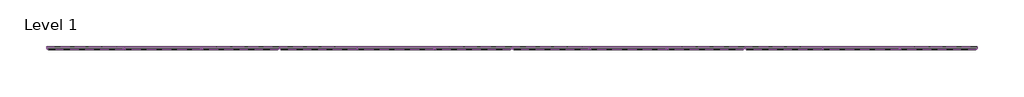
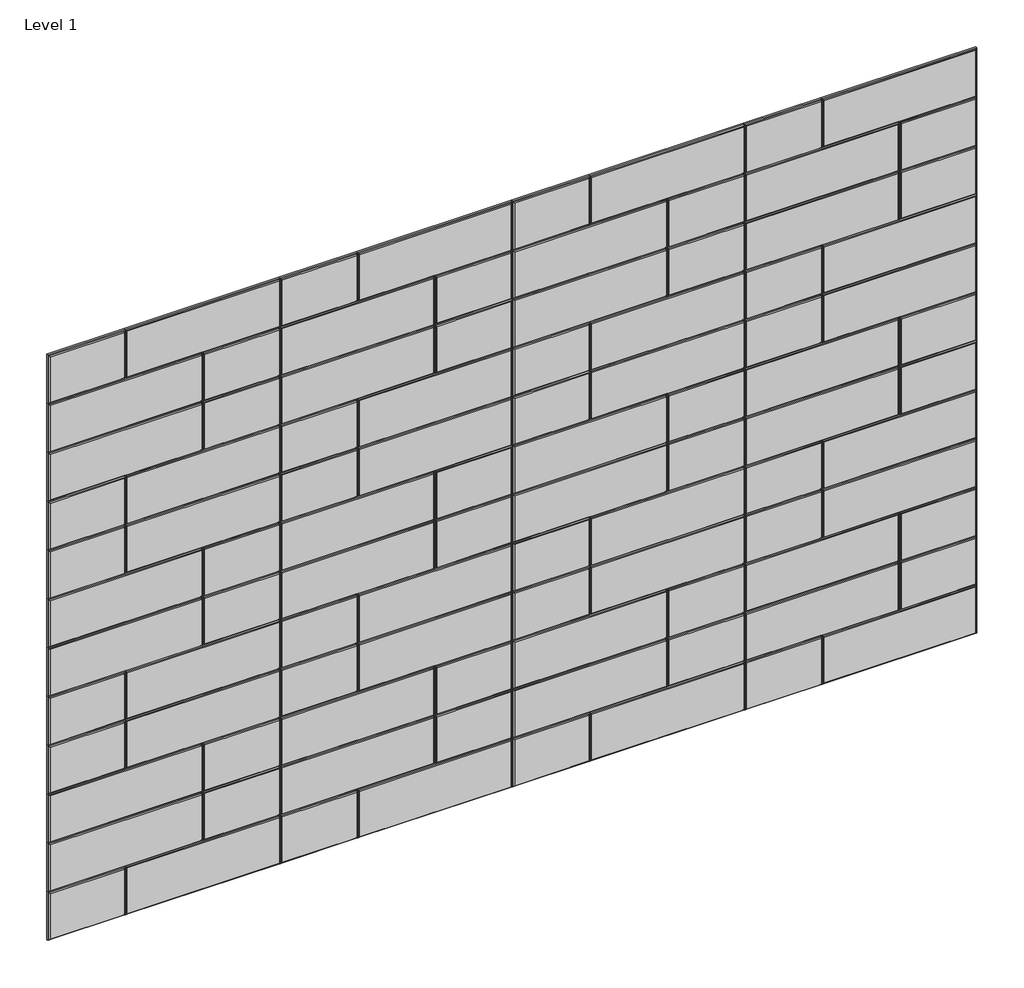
# One storey: 96 proxies.
"""IFC4 building model written with IfcOpenShell, lengths in millimetres."""

from ifc_helpers import new_model, si_unit, origin, place, context, project, spatial, transform, mapped, element, save
from components import specialty_equipment_352826ec, specialty_equipment_34b97818

model = new_model("IFC4")

# Units and contexts
model_context = context("Model", 3, world=origin())
ifc_project = project(units=[si_unit("LENGTHUNIT", "METRE", prefix="MILLI")], contexts=[model_context])

# Site, building, storey
site = spatial("IfcSite", under=ifc_project)
building = spatial("IfcBuilding", under=site)
storey = spatial("IfcBuildingStorey", under=building, Name="Level 1", Elevation=0.0)

# Proxies
placement = place(None, origin())
specialty_equipment_shape = specialty_equipment_352826ec(model_context)
element("IfcBuildingElementProxy", 1, Name="FilzFelt_Rectangle A_Block : Chamfered Edge = 2’-0” x 8” (61 x 20.3 cm)", ObjectType="FilzFelt_Rectangle A_Block : Chamfered Edge = 2’-0” x 8” (61 x 20.3 cm)", at=placement, inside=storey, context=model_context, shape_type="MappedRepresentation", body=[
    mapped(specialty_equipment_shape, transform((37977.3097905, 3946.8352795, 2540.0), x_axis=(1.0, 0.0, 0.0), y_axis=(0.0, 0.0, 1.0), z_axis=(0.0, -1.0, 0.0))),
])
element("IfcBuildingElementProxy", 2, Name="FilzFelt_Rectangle A_Block : Chamfered Edge = 2’-0” x 8” (61 x 20.3 cm)", ObjectType="FilzFelt_Rectangle A_Block : Chamfered Edge = 2’-0” x 8” (61 x 20.3 cm)", at=placement, inside=storey, context=model_context, shape_type="MappedRepresentation", body=[
    mapped(specialty_equipment_shape, transform((38891.7097905, 3946.8352795, 2540.0), x_axis=(1.0, 0.0, 0.0), y_axis=(0.0, 0.0, 1.0), z_axis=(0.0, -1.0, 0.0))),
])
element("IfcBuildingElementProxy", 3, Name="FilzFelt_Rectangle A_Block : Chamfered Edge = 2’-0” x 8” (61 x 20.3 cm)", ObjectType="FilzFelt_Rectangle A_Block : Chamfered Edge = 2’-0” x 8” (61 x 20.3 cm)", at=placement, inside=storey, context=model_context, shape_type="MappedRepresentation", body=[
    mapped(specialty_equipment_shape, transform((39806.1097905, 3946.8352795, 2540.0), x_axis=(1.0, 0.0, 0.0), y_axis=(0.0, 0.0, 1.0), z_axis=(0.0, -1.0, 0.0))),
])
element("IfcBuildingElementProxy", 4, Name="FilzFelt_Rectangle A_Block : Chamfered Edge = 2’-0” x 8” (61 x 20.3 cm)", ObjectType="FilzFelt_Rectangle A_Block : Chamfered Edge = 2’-0” x 8” (61 x 20.3 cm)", at=placement, inside=storey, context=model_context, shape_type="MappedRepresentation", body=[
    mapped(specialty_equipment_shape, transform((40720.5097905, 3946.8352795, 2540.0), x_axis=(1.0, 0.0, 0.0), y_axis=(0.0, 0.0, 1.0), z_axis=(0.0, -1.0, 0.0))),
])
element("IfcBuildingElementProxy", 5, Name="FilzFelt_Rectangle A_Block : Chamfered Edge = 2’-0” x 8” (61 x 20.3 cm)", ObjectType="FilzFelt_Rectangle A_Block : Chamfered Edge = 2’-0” x 8” (61 x 20.3 cm)", at=placement, inside=storey, context=model_context, shape_type="MappedRepresentation", body=[
    mapped(specialty_equipment_shape, transform((37672.5097905, 3946.8352795, 2133.6), x_axis=(1.0, 0.0, 0.0), y_axis=(0.0, 0.0, 1.0), z_axis=(0.0, -1.0, 0.0))),
])
element("IfcBuildingElementProxy", 6, Name="FilzFelt_Rectangle A_Block : Chamfered Edge = 2’-0” x 8” (61 x 20.3 cm)", ObjectType="FilzFelt_Rectangle A_Block : Chamfered Edge = 2’-0” x 8” (61 x 20.3 cm)", at=placement, inside=storey, context=model_context, shape_type="MappedRepresentation", body=[
    mapped(specialty_equipment_shape, transform((38586.9097905, 3946.8352795, 2133.6), x_axis=(1.0, 0.0, 0.0), y_axis=(0.0, 0.0, 1.0), z_axis=(0.0, -1.0, 0.0))),
])
element("IfcBuildingElementProxy", 7, Name="FilzFelt_Rectangle A_Block : Chamfered Edge = 2’-0” x 8” (61 x 20.3 cm)", ObjectType="FilzFelt_Rectangle A_Block : Chamfered Edge = 2’-0” x 8” (61 x 20.3 cm)", at=placement, inside=storey, context=model_context, shape_type="MappedRepresentation", body=[
    mapped(specialty_equipment_shape, transform((39501.3097905, 3946.8352795, 2133.6), x_axis=(1.0, 0.0, 0.0), y_axis=(0.0, 0.0, 1.0), z_axis=(0.0, -1.0, 0.0))),
])
element("IfcBuildingElementProxy", 8, Name="FilzFelt_Rectangle A_Block : Chamfered Edge = 2’-0” x 8” (61 x 20.3 cm)", ObjectType="FilzFelt_Rectangle A_Block : Chamfered Edge = 2’-0” x 8” (61 x 20.3 cm)", at=placement, inside=storey, context=model_context, shape_type="MappedRepresentation", body=[
    mapped(specialty_equipment_shape, transform((40415.7097905, 3946.8352795, 2133.6), x_axis=(1.0, 0.0, 0.0), y_axis=(0.0, 0.0, 1.0), z_axis=(0.0, -1.0, 0.0))),
])
element("IfcBuildingElementProxy", 9, Name="FilzFelt_Rectangle A_Block : Chamfered Edge = 2’-0” x 8” (61 x 20.3 cm)", ObjectType="FilzFelt_Rectangle A_Block : Chamfered Edge = 2’-0” x 8” (61 x 20.3 cm)", at=placement, inside=storey, context=model_context, shape_type="MappedRepresentation", body=[
    mapped(specialty_equipment_shape, transform((37977.3097905, 3946.8352795, 1727.2), x_axis=(1.0, 0.0, 0.0), y_axis=(0.0, 0.0, 1.0), z_axis=(0.0, -1.0, 0.0))),
])
element("IfcBuildingElementProxy", 10, Name="FilzFelt_Rectangle A_Block : Chamfered Edge = 2’-0” x 8” (61 x 20.3 cm)", ObjectType="FilzFelt_Rectangle A_Block : Chamfered Edge = 2’-0” x 8” (61 x 20.3 cm)", at=placement, inside=storey, context=model_context, shape_type="MappedRepresentation", body=[
    mapped(specialty_equipment_shape, transform((38891.7097905, 3946.8352795, 1727.2), x_axis=(1.0, 0.0, 0.0), y_axis=(0.0, 0.0, 1.0), z_axis=(0.0, -1.0, 0.0))),
])
element("IfcBuildingElementProxy", 11, Name="FilzFelt_Rectangle A_Block : Chamfered Edge = 2’-0” x 8” (61 x 20.3 cm)", ObjectType="FilzFelt_Rectangle A_Block : Chamfered Edge = 2’-0” x 8” (61 x 20.3 cm)", at=placement, inside=storey, context=model_context, shape_type="MappedRepresentation", body=[
    mapped(specialty_equipment_shape, transform((39806.1097905, 3946.8352795, 1727.2), x_axis=(1.0, 0.0, 0.0), y_axis=(0.0, 0.0, 1.0), z_axis=(0.0, -1.0, 0.0))),
])
element("IfcBuildingElementProxy", 12, Name="FilzFelt_Rectangle A_Block : Chamfered Edge = 2’-0” x 8” (61 x 20.3 cm)", ObjectType="FilzFelt_Rectangle A_Block : Chamfered Edge = 2’-0” x 8” (61 x 20.3 cm)", at=placement, inside=storey, context=model_context, shape_type="MappedRepresentation", body=[
    mapped(specialty_equipment_shape, transform((40720.5097905, 3946.8352795, 1727.2), x_axis=(1.0, 0.0, 0.0), y_axis=(0.0, 0.0, 1.0), z_axis=(0.0, -1.0, 0.0))),
])
element("IfcBuildingElementProxy", 13, Name="FilzFelt_Rectangle A_Block : Chamfered Edge = 2’-0” x 8” (61 x 20.3 cm)", ObjectType="FilzFelt_Rectangle A_Block : Chamfered Edge = 2’-0” x 8” (61 x 20.3 cm)", at=placement, inside=storey, context=model_context, shape_type="MappedRepresentation", body=[
    mapped(specialty_equipment_shape, transform((37672.5097905, 3946.8352795, 1320.8), x_axis=(1.0, 0.0, 0.0), y_axis=(0.0, 0.0, 1.0), z_axis=(0.0, -1.0, 0.0))),
])
element("IfcBuildingElementProxy", 14, Name="FilzFelt_Rectangle A_Block : Chamfered Edge = 2’-0” x 8” (61 x 20.3 cm)", ObjectType="FilzFelt_Rectangle A_Block : Chamfered Edge = 2’-0” x 8” (61 x 20.3 cm)", at=placement, inside=storey, context=model_context, shape_type="MappedRepresentation", body=[
    mapped(specialty_equipment_shape, transform((38586.9097905, 3946.8352795, 1320.8), x_axis=(1.0, 0.0, 0.0), y_axis=(0.0, 0.0, 1.0), z_axis=(0.0, -1.0, 0.0))),
])
element("IfcBuildingElementProxy", 15, Name="FilzFelt_Rectangle A_Block : Chamfered Edge = 2’-0” x 8” (61 x 20.3 cm)", ObjectType="FilzFelt_Rectangle A_Block : Chamfered Edge = 2’-0” x 8” (61 x 20.3 cm)", at=placement, inside=storey, context=model_context, shape_type="MappedRepresentation", body=[
    mapped(specialty_equipment_shape, transform((39501.3097905, 3946.8352795, 1320.8), x_axis=(1.0, 0.0, 0.0), y_axis=(0.0, 0.0, 1.0), z_axis=(0.0, -1.0, 0.0))),
])
element("IfcBuildingElementProxy", 16, Name="FilzFelt_Rectangle A_Block : Chamfered Edge = 2’-0” x 8” (61 x 20.3 cm)", ObjectType="FilzFelt_Rectangle A_Block : Chamfered Edge = 2’-0” x 8” (61 x 20.3 cm)", at=placement, inside=storey, context=model_context, shape_type="MappedRepresentation", body=[
    mapped(specialty_equipment_shape, transform((40415.7097905, 3946.8352795, 1320.8), x_axis=(1.0, 0.0, 0.0), y_axis=(0.0, 0.0, 1.0), z_axis=(0.0, -1.0, 0.0))),
])
element("IfcBuildingElementProxy", 17, Name="FilzFelt_Rectangle A_Block : Chamfered Edge = 2’-0” x 8” (61 x 20.3 cm)", ObjectType="FilzFelt_Rectangle A_Block : Chamfered Edge = 2’-0” x 8” (61 x 20.3 cm)", at=placement, inside=storey, context=model_context, shape_type="MappedRepresentation", body=[
    mapped(specialty_equipment_shape, transform((37977.3097905, 3946.8352795, 914.4), x_axis=(1.0, 0.0, 0.0), y_axis=(0.0, 0.0, 1.0), z_axis=(0.0, -1.0, 0.0))),
])
element("IfcBuildingElementProxy", 18, Name="FilzFelt_Rectangle A_Block : Chamfered Edge = 2’-0” x 8” (61 x 20.3 cm)", ObjectType="FilzFelt_Rectangle A_Block : Chamfered Edge = 2’-0” x 8” (61 x 20.3 cm)", at=placement, inside=storey, context=model_context, shape_type="MappedRepresentation", body=[
    mapped(specialty_equipment_shape, transform((38891.7097905, 3946.8352795, 914.4), x_axis=(1.0, 0.0, 0.0), y_axis=(0.0, 0.0, 1.0), z_axis=(0.0, -1.0, 0.0))),
])
element("IfcBuildingElementProxy", 19, Name="FilzFelt_Rectangle A_Block : Chamfered Edge = 2’-0” x 8” (61 x 20.3 cm)", ObjectType="FilzFelt_Rectangle A_Block : Chamfered Edge = 2’-0” x 8” (61 x 20.3 cm)", at=placement, inside=storey, context=model_context, shape_type="MappedRepresentation", body=[
    mapped(specialty_equipment_shape, transform((39806.1097905, 3946.8352795, 914.4), x_axis=(1.0, 0.0, 0.0), y_axis=(0.0, 0.0, 1.0), z_axis=(0.0, -1.0, 0.0))),
])
element("IfcBuildingElementProxy", 20, Name="FilzFelt_Rectangle A_Block : Chamfered Edge = 2’-0” x 8” (61 x 20.3 cm)", ObjectType="FilzFelt_Rectangle A_Block : Chamfered Edge = 2’-0” x 8” (61 x 20.3 cm)", at=placement, inside=storey, context=model_context, shape_type="MappedRepresentation", body=[
    mapped(specialty_equipment_shape, transform((40720.5097905, 3946.8352795, 914.4), x_axis=(1.0, 0.0, 0.0), y_axis=(0.0, 0.0, 1.0), z_axis=(0.0, -1.0, 0.0))),
])
element("IfcBuildingElementProxy", 21, Name="FilzFelt_Rectangle A_Block : Chamfered Edge = 2’-0” x 8” (61 x 20.3 cm)", ObjectType="FilzFelt_Rectangle A_Block : Chamfered Edge = 2’-0” x 8” (61 x 20.3 cm)", at=placement, inside=storey, context=model_context, shape_type="MappedRepresentation", body=[
    mapped(specialty_equipment_shape, transform((37672.5097905, 3946.8352795, 508.0), x_axis=(1.0, 0.0, 0.0), y_axis=(0.0, 0.0, 1.0), z_axis=(0.0, -1.0, 0.0))),
])
element("IfcBuildingElementProxy", 22, Name="FilzFelt_Rectangle A_Block : Chamfered Edge = 2’-0” x 8” (61 x 20.3 cm)", ObjectType="FilzFelt_Rectangle A_Block : Chamfered Edge = 2’-0” x 8” (61 x 20.3 cm)", at=placement, inside=storey, context=model_context, shape_type="MappedRepresentation", body=[
    mapped(specialty_equipment_shape, transform((38586.9097905, 3946.8352795, 508.0), x_axis=(1.0, 0.0, 0.0), y_axis=(0.0, 0.0, 1.0), z_axis=(0.0, -1.0, 0.0))),
])
element("IfcBuildingElementProxy", 23, Name="FilzFelt_Rectangle A_Block : Chamfered Edge = 2’-0” x 8” (61 x 20.3 cm)", ObjectType="FilzFelt_Rectangle A_Block : Chamfered Edge = 2’-0” x 8” (61 x 20.3 cm)", at=placement, inside=storey, context=model_context, shape_type="MappedRepresentation", body=[
    mapped(specialty_equipment_shape, transform((39501.3097905, 3946.8352795, 508.0), x_axis=(1.0, 0.0, 0.0), y_axis=(0.0, 0.0, 1.0), z_axis=(0.0, -1.0, 0.0))),
])
element("IfcBuildingElementProxy", 24, Name="FilzFelt_Rectangle A_Block : Chamfered Edge = 2’-0” x 8” (61 x 20.3 cm)", ObjectType="FilzFelt_Rectangle A_Block : Chamfered Edge = 2’-0” x 8” (61 x 20.3 cm)", at=placement, inside=storey, context=model_context, shape_type="MappedRepresentation", body=[
    mapped(specialty_equipment_shape, transform((40415.7097905, 3946.8352795, 508.0), x_axis=(1.0, 0.0, 0.0), y_axis=(0.0, 0.0, 1.0), z_axis=(0.0, -1.0, 0.0))),
])
element("IfcBuildingElementProxy", 25, Name="FilzFelt_Rectangle A_Block : Chamfered Edge = 2’-0” x 8” (61 x 20.3 cm)", ObjectType="FilzFelt_Rectangle A_Block : Chamfered Edge = 2’-0” x 8” (61 x 20.3 cm)", at=placement, inside=storey, context=model_context, shape_type="MappedRepresentation", body=[
    mapped(specialty_equipment_shape, transform((37672.5097905, 3946.8352795, 2336.8), x_axis=(1.0, 0.0, 0.0), y_axis=(0.0, 0.0, 1.0), z_axis=(0.0, -1.0, 0.0))),
])
element("IfcBuildingElementProxy", 26, Name="FilzFelt_Rectangle A_Block : Chamfered Edge = 2’-0” x 8” (61 x 20.3 cm)", ObjectType="FilzFelt_Rectangle A_Block : Chamfered Edge = 2’-0” x 8” (61 x 20.3 cm)", at=placement, inside=storey, context=model_context, shape_type="MappedRepresentation", body=[
    mapped(specialty_equipment_shape, transform((38586.9097905, 3946.8352795, 2336.8), x_axis=(1.0, 0.0, 0.0), y_axis=(0.0, 0.0, 1.0), z_axis=(0.0, -1.0, 0.0))),
])
element("IfcBuildingElementProxy", 27, Name="FilzFelt_Rectangle A_Block : Chamfered Edge = 2’-0” x 8” (61 x 20.3 cm)", ObjectType="FilzFelt_Rectangle A_Block : Chamfered Edge = 2’-0” x 8” (61 x 20.3 cm)", at=placement, inside=storey, context=model_context, shape_type="MappedRepresentation", body=[
    mapped(specialty_equipment_shape, transform((39501.3097905, 3946.8352795, 2336.8), x_axis=(1.0, 0.0, 0.0), y_axis=(0.0, 0.0, 1.0), z_axis=(0.0, -1.0, 0.0))),
])
element("IfcBuildingElementProxy", 28, Name="FilzFelt_Rectangle A_Block : Chamfered Edge = 2’-0” x 8” (61 x 20.3 cm)", ObjectType="FilzFelt_Rectangle A_Block : Chamfered Edge = 2’-0” x 8” (61 x 20.3 cm)", at=placement, inside=storey, context=model_context, shape_type="MappedRepresentation", body=[
    mapped(specialty_equipment_shape, transform((40415.7097905, 3946.8352795, 2336.8), x_axis=(1.0, 0.0, 0.0), y_axis=(0.0, 0.0, 1.0), z_axis=(0.0, -1.0, 0.0))),
])
element("IfcBuildingElementProxy", 29, Name="FilzFelt_Rectangle A_Block : Chamfered Edge = 2’-0” x 8” (61 x 20.3 cm)", ObjectType="FilzFelt_Rectangle A_Block : Chamfered Edge = 2’-0” x 8” (61 x 20.3 cm)", at=placement, inside=storey, context=model_context, shape_type="MappedRepresentation", body=[
    mapped(specialty_equipment_shape, transform((37977.3097905, 3946.8352795, 1930.4), x_axis=(1.0, 0.0, 0.0), y_axis=(0.0, 0.0, 1.0), z_axis=(0.0, -1.0, 0.0))),
])
element("IfcBuildingElementProxy", 30, Name="FilzFelt_Rectangle A_Block : Chamfered Edge = 2’-0” x 8” (61 x 20.3 cm)", ObjectType="FilzFelt_Rectangle A_Block : Chamfered Edge = 2’-0” x 8” (61 x 20.3 cm)", at=placement, inside=storey, context=model_context, shape_type="MappedRepresentation", body=[
    mapped(specialty_equipment_shape, transform((38891.7097905, 3946.8352795, 1930.4), x_axis=(1.0, 0.0, 0.0), y_axis=(0.0, 0.0, 1.0), z_axis=(0.0, -1.0, 0.0))),
])
element("IfcBuildingElementProxy", 31, Name="FilzFelt_Rectangle A_Block : Chamfered Edge = 2’-0” x 8” (61 x 20.3 cm)", ObjectType="FilzFelt_Rectangle A_Block : Chamfered Edge = 2’-0” x 8” (61 x 20.3 cm)", at=placement, inside=storey, context=model_context, shape_type="MappedRepresentation", body=[
    mapped(specialty_equipment_shape, transform((39806.1097905, 3946.8352795, 1930.4), x_axis=(1.0, 0.0, 0.0), y_axis=(0.0, 0.0, 1.0), z_axis=(0.0, -1.0, 0.0))),
])
element("IfcBuildingElementProxy", 32, Name="FilzFelt_Rectangle A_Block : Chamfered Edge = 2’-0” x 8” (61 x 20.3 cm)", ObjectType="FilzFelt_Rectangle A_Block : Chamfered Edge = 2’-0” x 8” (61 x 20.3 cm)", at=placement, inside=storey, context=model_context, shape_type="MappedRepresentation", body=[
    mapped(specialty_equipment_shape, transform((40720.5097905, 3946.8352795, 1930.4), x_axis=(1.0, 0.0, 0.0), y_axis=(0.0, 0.0, 1.0), z_axis=(0.0, -1.0, 0.0))),
])
element("IfcBuildingElementProxy", 33, Name="FilzFelt_Rectangle A_Block : Chamfered Edge = 2’-0” x 8” (61 x 20.3 cm)", ObjectType="FilzFelt_Rectangle A_Block : Chamfered Edge = 2’-0” x 8” (61 x 20.3 cm)", at=placement, inside=storey, context=model_context, shape_type="MappedRepresentation", body=[
    mapped(specialty_equipment_shape, transform((37672.5097905, 3946.8352795, 1524.0), x_axis=(1.0, 0.0, 0.0), y_axis=(0.0, 0.0, 1.0), z_axis=(0.0, -1.0, 0.0))),
])
element("IfcBuildingElementProxy", 34, Name="FilzFelt_Rectangle A_Block : Chamfered Edge = 2’-0” x 8” (61 x 20.3 cm)", ObjectType="FilzFelt_Rectangle A_Block : Chamfered Edge = 2’-0” x 8” (61 x 20.3 cm)", at=placement, inside=storey, context=model_context, shape_type="MappedRepresentation", body=[
    mapped(specialty_equipment_shape, transform((38586.9097905, 3946.8352795, 1524.0), x_axis=(1.0, 0.0, 0.0), y_axis=(0.0, 0.0, 1.0), z_axis=(0.0, -1.0, 0.0))),
])
element("IfcBuildingElementProxy", 35, Name="FilzFelt_Rectangle A_Block : Chamfered Edge = 2’-0” x 8” (61 x 20.3 cm)", ObjectType="FilzFelt_Rectangle A_Block : Chamfered Edge = 2’-0” x 8” (61 x 20.3 cm)", at=placement, inside=storey, context=model_context, shape_type="MappedRepresentation", body=[
    mapped(specialty_equipment_shape, transform((39501.3097905, 3946.8352795, 1524.0), x_axis=(1.0, 0.0, 0.0), y_axis=(0.0, 0.0, 1.0), z_axis=(0.0, -1.0, 0.0))),
])
element("IfcBuildingElementProxy", 36, Name="FilzFelt_Rectangle A_Block : Chamfered Edge = 2’-0” x 8” (61 x 20.3 cm)", ObjectType="FilzFelt_Rectangle A_Block : Chamfered Edge = 2’-0” x 8” (61 x 20.3 cm)", at=placement, inside=storey, context=model_context, shape_type="MappedRepresentation", body=[
    mapped(specialty_equipment_shape, transform((40415.7097905, 3946.8352795, 1524.0), x_axis=(1.0, 0.0, 0.0), y_axis=(0.0, 0.0, 1.0), z_axis=(0.0, -1.0, 0.0))),
])
element("IfcBuildingElementProxy", 37, Name="FilzFelt_Rectangle A_Block : Chamfered Edge = 2’-0” x 8” (61 x 20.3 cm)", ObjectType="FilzFelt_Rectangle A_Block : Chamfered Edge = 2’-0” x 8” (61 x 20.3 cm)", at=placement, inside=storey, context=model_context, shape_type="MappedRepresentation", body=[
    mapped(specialty_equipment_shape, transform((37977.3097905, 3946.8352795, 1117.6), x_axis=(1.0, 0.0, 0.0), y_axis=(0.0, 0.0, 1.0), z_axis=(0.0, -1.0, 0.0))),
])
element("IfcBuildingElementProxy", 38, Name="FilzFelt_Rectangle A_Block : Chamfered Edge = 2’-0” x 8” (61 x 20.3 cm)", ObjectType="FilzFelt_Rectangle A_Block : Chamfered Edge = 2’-0” x 8” (61 x 20.3 cm)", at=placement, inside=storey, context=model_context, shape_type="MappedRepresentation", body=[
    mapped(specialty_equipment_shape, transform((38891.7097905, 3946.8352795, 1117.6), x_axis=(1.0, 0.0, 0.0), y_axis=(0.0, 0.0, 1.0), z_axis=(0.0, -1.0, 0.0))),
])
element("IfcBuildingElementProxy", 39, Name="FilzFelt_Rectangle A_Block : Chamfered Edge = 2’-0” x 8” (61 x 20.3 cm)", ObjectType="FilzFelt_Rectangle A_Block : Chamfered Edge = 2’-0” x 8” (61 x 20.3 cm)", at=placement, inside=storey, context=model_context, shape_type="MappedRepresentation", body=[
    mapped(specialty_equipment_shape, transform((39806.1097905, 3946.8352795, 1117.6), x_axis=(1.0, 0.0, 0.0), y_axis=(0.0, 0.0, 1.0), z_axis=(0.0, -1.0, 0.0))),
])
element("IfcBuildingElementProxy", 40, Name="FilzFelt_Rectangle A_Block : Chamfered Edge = 2’-0” x 8” (61 x 20.3 cm)", ObjectType="FilzFelt_Rectangle A_Block : Chamfered Edge = 2’-0” x 8” (61 x 20.3 cm)", at=placement, inside=storey, context=model_context, shape_type="MappedRepresentation", body=[
    mapped(specialty_equipment_shape, transform((40720.5097905, 3946.8352795, 1117.6), x_axis=(1.0, 0.0, 0.0), y_axis=(0.0, 0.0, 1.0), z_axis=(0.0, -1.0, 0.0))),
])
element("IfcBuildingElementProxy", 41, Name="FilzFelt_Rectangle A_Block : Chamfered Edge = 2’-0” x 8” (61 x 20.3 cm)", ObjectType="FilzFelt_Rectangle A_Block : Chamfered Edge = 2’-0” x 8” (61 x 20.3 cm)", at=placement, inside=storey, context=model_context, shape_type="MappedRepresentation", body=[
    mapped(specialty_equipment_shape, transform((37672.5097905, 3946.8352795, 711.2), x_axis=(1.0, 0.0, 0.0), y_axis=(0.0, 0.0, 1.0), z_axis=(0.0, -1.0, 0.0))),
])
element("IfcBuildingElementProxy", 42, Name="FilzFelt_Rectangle A_Block : Chamfered Edge = 2’-0” x 8” (61 x 20.3 cm)", ObjectType="FilzFelt_Rectangle A_Block : Chamfered Edge = 2’-0” x 8” (61 x 20.3 cm)", at=placement, inside=storey, context=model_context, shape_type="MappedRepresentation", body=[
    mapped(specialty_equipment_shape, transform((38586.9097905, 3946.8352795, 711.2), x_axis=(1.0, 0.0, 0.0), y_axis=(0.0, 0.0, 1.0), z_axis=(0.0, -1.0, 0.0))),
])
element("IfcBuildingElementProxy", 43, Name="FilzFelt_Rectangle A_Block : Chamfered Edge = 2’-0” x 8” (61 x 20.3 cm)", ObjectType="FilzFelt_Rectangle A_Block : Chamfered Edge = 2’-0” x 8” (61 x 20.3 cm)", at=placement, inside=storey, context=model_context, shape_type="MappedRepresentation", body=[
    mapped(specialty_equipment_shape, transform((39501.3097905, 3946.8352795, 711.2), x_axis=(1.0, 0.0, 0.0), y_axis=(0.0, 0.0, 1.0), z_axis=(0.0, -1.0, 0.0))),
])
element("IfcBuildingElementProxy", 44, Name="FilzFelt_Rectangle A_Block : Chamfered Edge = 2’-0” x 8” (61 x 20.3 cm)", ObjectType="FilzFelt_Rectangle A_Block : Chamfered Edge = 2’-0” x 8” (61 x 20.3 cm)", at=placement, inside=storey, context=model_context, shape_type="MappedRepresentation", body=[
    mapped(specialty_equipment_shape, transform((40415.7097905, 3946.8352795, 711.2), x_axis=(1.0, 0.0, 0.0), y_axis=(0.0, 0.0, 1.0), z_axis=(0.0, -1.0, 0.0))),
])
element("IfcBuildingElementProxy", 45, Name="FilzFelt_Rectangle A_Block : Chamfered Edge = 2’-0” x 8” (61 x 20.3 cm)", ObjectType="FilzFelt_Rectangle A_Block : Chamfered Edge = 2’-0” x 8” (61 x 20.3 cm)", at=placement, inside=storey, context=model_context, shape_type="MappedRepresentation", body=[
    mapped(specialty_equipment_shape, transform((37977.3097905, 3946.8352795, 304.8), x_axis=(1.0, 0.0, 0.0), y_axis=(0.0, 0.0, 1.0), z_axis=(0.0, -1.0, 0.0))),
])
element("IfcBuildingElementProxy", 46, Name="FilzFelt_Rectangle A_Block : Chamfered Edge = 2’-0” x 8” (61 x 20.3 cm)", ObjectType="FilzFelt_Rectangle A_Block : Chamfered Edge = 2’-0” x 8” (61 x 20.3 cm)", at=placement, inside=storey, context=model_context, shape_type="MappedRepresentation", body=[
    mapped(specialty_equipment_shape, transform((38891.7097905, 3946.8352795, 304.8), x_axis=(1.0, 0.0, 0.0), y_axis=(0.0, 0.0, 1.0), z_axis=(0.0, -1.0, 0.0))),
])
element("IfcBuildingElementProxy", 47, Name="FilzFelt_Rectangle A_Block : Chamfered Edge = 2’-0” x 8” (61 x 20.3 cm)", ObjectType="FilzFelt_Rectangle A_Block : Chamfered Edge = 2’-0” x 8” (61 x 20.3 cm)", at=placement, inside=storey, context=model_context, shape_type="MappedRepresentation", body=[
    mapped(specialty_equipment_shape, transform((39806.1097905, 3946.8352795, 304.8), x_axis=(1.0, 0.0, 0.0), y_axis=(0.0, 0.0, 1.0), z_axis=(0.0, -1.0, 0.0))),
])
element("IfcBuildingElementProxy", 48, Name="FilzFelt_Rectangle A_Block : Chamfered Edge = 2’-0” x 8” (61 x 20.3 cm)", ObjectType="FilzFelt_Rectangle A_Block : Chamfered Edge = 2’-0” x 8” (61 x 20.3 cm)", at=placement, inside=storey, context=model_context, shape_type="MappedRepresentation", body=[
    mapped(specialty_equipment_shape, transform((40720.5097905, 3946.8352795, 304.8), x_axis=(1.0, 0.0, 0.0), y_axis=(0.0, 0.0, 1.0), z_axis=(0.0, -1.0, 0.0))),
])
specialty_equipment_2_shape = specialty_equipment_34b97818(model_context)
element("IfcBuildingElementProxy", 49, Name="FilzFelt_Rectangle B_Block : Chamfered Edge = 1’-0” x 8” (30.5 x 20.3 cm)", ObjectType="FilzFelt_Rectangle B_Block : Chamfered Edge = 1’-0” x 8” (30.5 x 20.3 cm)", at=placement, inside=storey, context=model_context, shape_type="MappedRepresentation", body=[
    mapped(specialty_equipment_2_shape, transform((37520.1097905, 3946.8352795, 2540.0), x_axis=(1.0, 0.0, 0.0), y_axis=(0.0, 0.0, 1.0), z_axis=(0.0, -1.0, 0.0))),
])
element("IfcBuildingElementProxy", 50, Name="FilzFelt_Rectangle B_Block : Chamfered Edge = 1’-0” x 8” (30.5 x 20.3 cm)", ObjectType="FilzFelt_Rectangle B_Block : Chamfered Edge = 1’-0” x 8” (30.5 x 20.3 cm)", at=placement, inside=storey, context=model_context, shape_type="MappedRepresentation", body=[
    mapped(specialty_equipment_2_shape, transform((38434.5097905, 3946.8352795, 2540.0), x_axis=(1.0, 0.0, 0.0), y_axis=(0.0, 0.0, 1.0), z_axis=(0.0, -1.0, 0.0))),
])
element("IfcBuildingElementProxy", 51, Name="FilzFelt_Rectangle B_Block : Chamfered Edge = 1’-0” x 8” (30.5 x 20.3 cm)", ObjectType="FilzFelt_Rectangle B_Block : Chamfered Edge = 1’-0” x 8” (30.5 x 20.3 cm)", at=placement, inside=storey, context=model_context, shape_type="MappedRepresentation", body=[
    mapped(specialty_equipment_2_shape, transform((39348.9097905, 3946.8352795, 2540.0), x_axis=(1.0, 0.0, 0.0), y_axis=(0.0, 0.0, 1.0), z_axis=(0.0, -1.0, 0.0))),
])
element("IfcBuildingElementProxy", 52, Name="FilzFelt_Rectangle B_Block : Chamfered Edge = 1’-0” x 8” (30.5 x 20.3 cm)", ObjectType="FilzFelt_Rectangle B_Block : Chamfered Edge = 1’-0” x 8” (30.5 x 20.3 cm)", at=placement, inside=storey, context=model_context, shape_type="MappedRepresentation", body=[
    mapped(specialty_equipment_2_shape, transform((40263.3097905, 3946.8352795, 2540.0), x_axis=(1.0, 0.0, 0.0), y_axis=(0.0, 0.0, 1.0), z_axis=(0.0, -1.0, 0.0))),
])
element("IfcBuildingElementProxy", 53, Name="FilzFelt_Rectangle B_Block : Chamfered Edge = 1’-0” x 8” (30.5 x 20.3 cm)", ObjectType="FilzFelt_Rectangle B_Block : Chamfered Edge = 1’-0” x 8” (30.5 x 20.3 cm)", at=placement, inside=storey, context=model_context, shape_type="MappedRepresentation", body=[
    mapped(specialty_equipment_2_shape, transform((38129.7097905, 3946.8352795, 2133.6), x_axis=(1.0, 0.0, 0.0), y_axis=(0.0, 0.0, 1.0), z_axis=(0.0, -1.0, 0.0))),
])
element("IfcBuildingElementProxy", 54, Name="FilzFelt_Rectangle B_Block : Chamfered Edge = 1’-0” x 8” (30.5 x 20.3 cm)", ObjectType="FilzFelt_Rectangle B_Block : Chamfered Edge = 1’-0” x 8” (30.5 x 20.3 cm)", at=placement, inside=storey, context=model_context, shape_type="MappedRepresentation", body=[
    mapped(specialty_equipment_2_shape, transform((39044.1097905, 3946.8352795, 2133.6), x_axis=(1.0, 0.0, 0.0), y_axis=(0.0, 0.0, 1.0), z_axis=(0.0, -1.0, 0.0))),
])
element("IfcBuildingElementProxy", 55, Name="FilzFelt_Rectangle B_Block : Chamfered Edge = 1’-0” x 8” (30.5 x 20.3 cm)", ObjectType="FilzFelt_Rectangle B_Block : Chamfered Edge = 1’-0” x 8” (30.5 x 20.3 cm)", at=placement, inside=storey, context=model_context, shape_type="MappedRepresentation", body=[
    mapped(specialty_equipment_2_shape, transform((39958.5097905, 3946.8352795, 2133.6), x_axis=(1.0, 0.0, 0.0), y_axis=(0.0, 0.0, 1.0), z_axis=(0.0, -1.0, 0.0))),
])
element("IfcBuildingElementProxy", 56, Name="FilzFelt_Rectangle B_Block : Chamfered Edge = 1’-0” x 8” (30.5 x 20.3 cm)", ObjectType="FilzFelt_Rectangle B_Block : Chamfered Edge = 1’-0” x 8” (30.5 x 20.3 cm)", at=placement, inside=storey, context=model_context, shape_type="MappedRepresentation", body=[
    mapped(specialty_equipment_2_shape, transform((40872.9097905, 3946.8352795, 2133.6), x_axis=(1.0, 0.0, 0.0), y_axis=(0.0, 0.0, 1.0), z_axis=(0.0, -1.0, 0.0))),
])
element("IfcBuildingElementProxy", 57, Name="FilzFelt_Rectangle B_Block : Chamfered Edge = 1’-0” x 8” (30.5 x 20.3 cm)", ObjectType="FilzFelt_Rectangle B_Block : Chamfered Edge = 1’-0” x 8” (30.5 x 20.3 cm)", at=placement, inside=storey, context=model_context, shape_type="MappedRepresentation", body=[
    mapped(specialty_equipment_2_shape, transform((37520.1097905, 3946.8352795, 1727.2), x_axis=(1.0, 0.0, 0.0), y_axis=(0.0, 0.0, 1.0), z_axis=(0.0, -1.0, 0.0))),
])
element("IfcBuildingElementProxy", 58, Name="FilzFelt_Rectangle B_Block : Chamfered Edge = 1’-0” x 8” (30.5 x 20.3 cm)", ObjectType="FilzFelt_Rectangle B_Block : Chamfered Edge = 1’-0” x 8” (30.5 x 20.3 cm)", at=placement, inside=storey, context=model_context, shape_type="MappedRepresentation", body=[
    mapped(specialty_equipment_2_shape, transform((38434.5097905, 3946.8352795, 1727.2), x_axis=(1.0, 0.0, 0.0), y_axis=(0.0, 0.0, 1.0), z_axis=(0.0, -1.0, 0.0))),
])
element("IfcBuildingElementProxy", 59, Name="FilzFelt_Rectangle B_Block : Chamfered Edge = 1’-0” x 8” (30.5 x 20.3 cm)", ObjectType="FilzFelt_Rectangle B_Block : Chamfered Edge = 1’-0” x 8” (30.5 x 20.3 cm)", at=placement, inside=storey, context=model_context, shape_type="MappedRepresentation", body=[
    mapped(specialty_equipment_2_shape, transform((39348.9097905, 3946.8352795, 1727.2), x_axis=(1.0, 0.0, 0.0), y_axis=(0.0, 0.0, 1.0), z_axis=(0.0, -1.0, 0.0))),
])
element("IfcBuildingElementProxy", 60, Name="FilzFelt_Rectangle B_Block : Chamfered Edge = 1’-0” x 8” (30.5 x 20.3 cm)", ObjectType="FilzFelt_Rectangle B_Block : Chamfered Edge = 1’-0” x 8” (30.5 x 20.3 cm)", at=placement, inside=storey, context=model_context, shape_type="MappedRepresentation", body=[
    mapped(specialty_equipment_2_shape, transform((40263.3097905, 3946.8352795, 1727.2), x_axis=(1.0, 0.0, 0.0), y_axis=(0.0, 0.0, 1.0), z_axis=(0.0, -1.0, 0.0))),
])
element("IfcBuildingElementProxy", 61, Name="FilzFelt_Rectangle B_Block : Chamfered Edge = 1’-0” x 8” (30.5 x 20.3 cm)", ObjectType="FilzFelt_Rectangle B_Block : Chamfered Edge = 1’-0” x 8” (30.5 x 20.3 cm)", at=placement, inside=storey, context=model_context, shape_type="MappedRepresentation", body=[
    mapped(specialty_equipment_2_shape, transform((38129.7097905, 3946.8352795, 1320.8), x_axis=(1.0, 0.0, 0.0), y_axis=(0.0, 0.0, 1.0), z_axis=(0.0, -1.0, 0.0))),
])
element("IfcBuildingElementProxy", 62, Name="FilzFelt_Rectangle B_Block : Chamfered Edge = 1’-0” x 8” (30.5 x 20.3 cm)", ObjectType="FilzFelt_Rectangle B_Block : Chamfered Edge = 1’-0” x 8” (30.5 x 20.3 cm)", at=placement, inside=storey, context=model_context, shape_type="MappedRepresentation", body=[
    mapped(specialty_equipment_2_shape, transform((39044.1097905, 3946.8352795, 1320.8), x_axis=(1.0, 0.0, 0.0), y_axis=(0.0, 0.0, 1.0), z_axis=(0.0, -1.0, 0.0))),
])
element("IfcBuildingElementProxy", 63, Name="FilzFelt_Rectangle B_Block : Chamfered Edge = 1’-0” x 8” (30.5 x 20.3 cm)", ObjectType="FilzFelt_Rectangle B_Block : Chamfered Edge = 1’-0” x 8” (30.5 x 20.3 cm)", at=placement, inside=storey, context=model_context, shape_type="MappedRepresentation", body=[
    mapped(specialty_equipment_2_shape, transform((39958.5097905, 3946.8352795, 1320.8), x_axis=(1.0, 0.0, 0.0), y_axis=(0.0, 0.0, 1.0), z_axis=(0.0, -1.0, 0.0))),
])
element("IfcBuildingElementProxy", 64, Name="FilzFelt_Rectangle B_Block : Chamfered Edge = 1’-0” x 8” (30.5 x 20.3 cm)", ObjectType="FilzFelt_Rectangle B_Block : Chamfered Edge = 1’-0” x 8” (30.5 x 20.3 cm)", at=placement, inside=storey, context=model_context, shape_type="MappedRepresentation", body=[
    mapped(specialty_equipment_2_shape, transform((40872.9097905, 3946.8352795, 1320.8), x_axis=(1.0, 0.0, 0.0), y_axis=(0.0, 0.0, 1.0), z_axis=(0.0, -1.0, 0.0))),
])
element("IfcBuildingElementProxy", 65, Name="FilzFelt_Rectangle B_Block : Chamfered Edge = 1’-0” x 8” (30.5 x 20.3 cm)", ObjectType="FilzFelt_Rectangle B_Block : Chamfered Edge = 1’-0” x 8” (30.5 x 20.3 cm)", at=placement, inside=storey, context=model_context, shape_type="MappedRepresentation", body=[
    mapped(specialty_equipment_2_shape, transform((37520.1097905, 3946.8352795, 914.4), x_axis=(1.0, 0.0, 0.0), y_axis=(0.0, 0.0, 1.0), z_axis=(0.0, -1.0, 0.0))),
])
element("IfcBuildingElementProxy", 66, Name="FilzFelt_Rectangle B_Block : Chamfered Edge = 1’-0” x 8” (30.5 x 20.3 cm)", ObjectType="FilzFelt_Rectangle B_Block : Chamfered Edge = 1’-0” x 8” (30.5 x 20.3 cm)", at=placement, inside=storey, context=model_context, shape_type="MappedRepresentation", body=[
    mapped(specialty_equipment_2_shape, transform((38434.5097905, 3946.8352795, 914.4), x_axis=(1.0, 0.0, 0.0), y_axis=(0.0, 0.0, 1.0), z_axis=(0.0, -1.0, 0.0))),
])
element("IfcBuildingElementProxy", 67, Name="FilzFelt_Rectangle B_Block : Chamfered Edge = 1’-0” x 8” (30.5 x 20.3 cm)", ObjectType="FilzFelt_Rectangle B_Block : Chamfered Edge = 1’-0” x 8” (30.5 x 20.3 cm)", at=placement, inside=storey, context=model_context, shape_type="MappedRepresentation", body=[
    mapped(specialty_equipment_2_shape, transform((39348.9097905, 3946.8352795, 914.4), x_axis=(1.0, 0.0, 0.0), y_axis=(0.0, 0.0, 1.0), z_axis=(0.0, -1.0, 0.0))),
])
element("IfcBuildingElementProxy", 68, Name="FilzFelt_Rectangle B_Block : Chamfered Edge = 1’-0” x 8” (30.5 x 20.3 cm)", ObjectType="FilzFelt_Rectangle B_Block : Chamfered Edge = 1’-0” x 8” (30.5 x 20.3 cm)", at=placement, inside=storey, context=model_context, shape_type="MappedRepresentation", body=[
    mapped(specialty_equipment_2_shape, transform((40263.3097905, 3946.8352795, 914.4), x_axis=(1.0, 0.0, 0.0), y_axis=(0.0, 0.0, 1.0), z_axis=(0.0, -1.0, 0.0))),
])
element("IfcBuildingElementProxy", 69, Name="FilzFelt_Rectangle B_Block : Chamfered Edge = 1’-0” x 8” (30.5 x 20.3 cm)", ObjectType="FilzFelt_Rectangle B_Block : Chamfered Edge = 1’-0” x 8” (30.5 x 20.3 cm)", at=placement, inside=storey, context=model_context, shape_type="MappedRepresentation", body=[
    mapped(specialty_equipment_2_shape, transform((38129.7097905, 3946.8352795, 508.0), x_axis=(1.0, 0.0, 0.0), y_axis=(0.0, 0.0, 1.0), z_axis=(0.0, -1.0, 0.0))),
])
element("IfcBuildingElementProxy", 70, Name="FilzFelt_Rectangle B_Block : Chamfered Edge = 1’-0” x 8” (30.5 x 20.3 cm)", ObjectType="FilzFelt_Rectangle B_Block : Chamfered Edge = 1’-0” x 8” (30.5 x 20.3 cm)", at=placement, inside=storey, context=model_context, shape_type="MappedRepresentation", body=[
    mapped(specialty_equipment_2_shape, transform((39044.1097905, 3946.8352795, 508.0), x_axis=(1.0, 0.0, 0.0), y_axis=(0.0, 0.0, 1.0), z_axis=(0.0, -1.0, 0.0))),
])
element("IfcBuildingElementProxy", 71, Name="FilzFelt_Rectangle B_Block : Chamfered Edge = 1’-0” x 8” (30.5 x 20.3 cm)", ObjectType="FilzFelt_Rectangle B_Block : Chamfered Edge = 1’-0” x 8” (30.5 x 20.3 cm)", at=placement, inside=storey, context=model_context, shape_type="MappedRepresentation", body=[
    mapped(specialty_equipment_2_shape, transform((39958.5097905, 3946.8352795, 508.0), x_axis=(1.0, 0.0, 0.0), y_axis=(0.0, 0.0, 1.0), z_axis=(0.0, -1.0, 0.0))),
])
element("IfcBuildingElementProxy", 72, Name="FilzFelt_Rectangle B_Block : Chamfered Edge = 1’-0” x 8” (30.5 x 20.3 cm)", ObjectType="FilzFelt_Rectangle B_Block : Chamfered Edge = 1’-0” x 8” (30.5 x 20.3 cm)", at=placement, inside=storey, context=model_context, shape_type="MappedRepresentation", body=[
    mapped(specialty_equipment_2_shape, transform((40872.9097905, 3946.8352795, 508.0), x_axis=(1.0, 0.0, 0.0), y_axis=(0.0, 0.0, 1.0), z_axis=(0.0, -1.0, 0.0))),
])
element("IfcBuildingElementProxy", 73, Name="FilzFelt_Rectangle B_Block : Chamfered Edge = 1’-0” x 8” (30.5 x 20.3 cm)", ObjectType="FilzFelt_Rectangle B_Block : Chamfered Edge = 1’-0” x 8” (30.5 x 20.3 cm)", at=placement, inside=storey, context=model_context, shape_type="MappedRepresentation", body=[
    mapped(specialty_equipment_2_shape, transform((38129.7097905, 3946.8352795, 2336.8), x_axis=(1.0, 0.0, 0.0), y_axis=(0.0, 0.0, 1.0), z_axis=(0.0, -1.0, 0.0))),
])
element("IfcBuildingElementProxy", 74, Name="FilzFelt_Rectangle B_Block : Chamfered Edge = 1’-0” x 8” (30.5 x 20.3 cm)", ObjectType="FilzFelt_Rectangle B_Block : Chamfered Edge = 1’-0” x 8” (30.5 x 20.3 cm)", at=placement, inside=storey, context=model_context, shape_type="MappedRepresentation", body=[
    mapped(specialty_equipment_2_shape, transform((39044.1097905, 3946.8352795, 2336.8), x_axis=(1.0, 0.0, 0.0), y_axis=(0.0, 0.0, 1.0), z_axis=(0.0, -1.0, 0.0))),
])
element("IfcBuildingElementProxy", 75, Name="FilzFelt_Rectangle B_Block : Chamfered Edge = 1’-0” x 8” (30.5 x 20.3 cm)", ObjectType="FilzFelt_Rectangle B_Block : Chamfered Edge = 1’-0” x 8” (30.5 x 20.3 cm)", at=placement, inside=storey, context=model_context, shape_type="MappedRepresentation", body=[
    mapped(specialty_equipment_2_shape, transform((39958.5097905, 3946.8352795, 2336.8), x_axis=(1.0, 0.0, 0.0), y_axis=(0.0, 0.0, 1.0), z_axis=(0.0, -1.0, 0.0))),
])
element("IfcBuildingElementProxy", 76, Name="FilzFelt_Rectangle B_Block : Chamfered Edge = 1’-0” x 8” (30.5 x 20.3 cm)", ObjectType="FilzFelt_Rectangle B_Block : Chamfered Edge = 1’-0” x 8” (30.5 x 20.3 cm)", at=placement, inside=storey, context=model_context, shape_type="MappedRepresentation", body=[
    mapped(specialty_equipment_2_shape, transform((40872.9097905, 3946.8352795, 2336.8), x_axis=(1.0, 0.0, 0.0), y_axis=(0.0, 0.0, 1.0), z_axis=(0.0, -1.0, 0.0))),
])
element("IfcBuildingElementProxy", 77, Name="FilzFelt_Rectangle B_Block : Chamfered Edge = 1’-0” x 8” (30.5 x 20.3 cm)", ObjectType="FilzFelt_Rectangle B_Block : Chamfered Edge = 1’-0” x 8” (30.5 x 20.3 cm)", at=placement, inside=storey, context=model_context, shape_type="MappedRepresentation", body=[
    mapped(specialty_equipment_2_shape, transform((37520.1097905, 3946.8352795, 1930.4), x_axis=(1.0, 0.0, 0.0), y_axis=(0.0, 0.0, 1.0), z_axis=(0.0, -1.0, 0.0))),
])
element("IfcBuildingElementProxy", 78, Name="FilzFelt_Rectangle B_Block : Chamfered Edge = 1’-0” x 8” (30.5 x 20.3 cm)", ObjectType="FilzFelt_Rectangle B_Block : Chamfered Edge = 1’-0” x 8” (30.5 x 20.3 cm)", at=placement, inside=storey, context=model_context, shape_type="MappedRepresentation", body=[
    mapped(specialty_equipment_2_shape, transform((38434.5097905, 3946.8352795, 1930.4), x_axis=(1.0, 0.0, 0.0), y_axis=(0.0, 0.0, 1.0), z_axis=(0.0, -1.0, 0.0))),
])
element("IfcBuildingElementProxy", 79, Name="FilzFelt_Rectangle B_Block : Chamfered Edge = 1’-0” x 8” (30.5 x 20.3 cm)", ObjectType="FilzFelt_Rectangle B_Block : Chamfered Edge = 1’-0” x 8” (30.5 x 20.3 cm)", at=placement, inside=storey, context=model_context, shape_type="MappedRepresentation", body=[
    mapped(specialty_equipment_2_shape, transform((39348.9097905, 3946.8352795, 1930.4), x_axis=(1.0, 0.0, 0.0), y_axis=(0.0, 0.0, 1.0), z_axis=(0.0, -1.0, 0.0))),
])
element("IfcBuildingElementProxy", 80, Name="FilzFelt_Rectangle B_Block : Chamfered Edge = 1’-0” x 8” (30.5 x 20.3 cm)", ObjectType="FilzFelt_Rectangle B_Block : Chamfered Edge = 1’-0” x 8” (30.5 x 20.3 cm)", at=placement, inside=storey, context=model_context, shape_type="MappedRepresentation", body=[
    mapped(specialty_equipment_2_shape, transform((40263.3097905, 3946.8352795, 1930.4), x_axis=(1.0, 0.0, 0.0), y_axis=(0.0, 0.0, 1.0), z_axis=(0.0, -1.0, 0.0))),
])
element("IfcBuildingElementProxy", 81, Name="FilzFelt_Rectangle B_Block : Chamfered Edge = 1’-0” x 8” (30.5 x 20.3 cm)", ObjectType="FilzFelt_Rectangle B_Block : Chamfered Edge = 1’-0” x 8” (30.5 x 20.3 cm)", at=placement, inside=storey, context=model_context, shape_type="MappedRepresentation", body=[
    mapped(specialty_equipment_2_shape, transform((38129.7097905, 3946.8352795, 1524.0), x_axis=(1.0, 0.0, 0.0), y_axis=(0.0, 0.0, 1.0), z_axis=(0.0, -1.0, 0.0))),
])
element("IfcBuildingElementProxy", 82, Name="FilzFelt_Rectangle B_Block : Chamfered Edge = 1’-0” x 8” (30.5 x 20.3 cm)", ObjectType="FilzFelt_Rectangle B_Block : Chamfered Edge = 1’-0” x 8” (30.5 x 20.3 cm)", at=placement, inside=storey, context=model_context, shape_type="MappedRepresentation", body=[
    mapped(specialty_equipment_2_shape, transform((39044.1097905, 3946.8352795, 1524.0), x_axis=(1.0, 0.0, 0.0), y_axis=(0.0, 0.0, 1.0), z_axis=(0.0, -1.0, 0.0))),
])
element("IfcBuildingElementProxy", 83, Name="FilzFelt_Rectangle B_Block : Chamfered Edge = 1’-0” x 8” (30.5 x 20.3 cm)", ObjectType="FilzFelt_Rectangle B_Block : Chamfered Edge = 1’-0” x 8” (30.5 x 20.3 cm)", at=placement, inside=storey, context=model_context, shape_type="MappedRepresentation", body=[
    mapped(specialty_equipment_2_shape, transform((39958.5097905, 3946.8352795, 1524.0), x_axis=(1.0, 0.0, 0.0), y_axis=(0.0, 0.0, 1.0), z_axis=(0.0, -1.0, 0.0))),
])
element("IfcBuildingElementProxy", 84, Name="FilzFelt_Rectangle B_Block : Chamfered Edge = 1’-0” x 8” (30.5 x 20.3 cm)", ObjectType="FilzFelt_Rectangle B_Block : Chamfered Edge = 1’-0” x 8” (30.5 x 20.3 cm)", at=placement, inside=storey, context=model_context, shape_type="MappedRepresentation", body=[
    mapped(specialty_equipment_2_shape, transform((40872.9097905, 3946.8352795, 1524.0), x_axis=(1.0, 0.0, 0.0), y_axis=(0.0, 0.0, 1.0), z_axis=(0.0, -1.0, 0.0))),
])
element("IfcBuildingElementProxy", 85, Name="FilzFelt_Rectangle B_Block : Chamfered Edge = 1’-0” x 8” (30.5 x 20.3 cm)", ObjectType="FilzFelt_Rectangle B_Block : Chamfered Edge = 1’-0” x 8” (30.5 x 20.3 cm)", at=placement, inside=storey, context=model_context, shape_type="MappedRepresentation", body=[
    mapped(specialty_equipment_2_shape, transform((37520.1097905, 3946.8352795, 1117.6), x_axis=(1.0, 0.0, 0.0), y_axis=(0.0, 0.0, 1.0), z_axis=(0.0, -1.0, 0.0))),
])
element("IfcBuildingElementProxy", 86, Name="FilzFelt_Rectangle B_Block : Chamfered Edge = 1’-0” x 8” (30.5 x 20.3 cm)", ObjectType="FilzFelt_Rectangle B_Block : Chamfered Edge = 1’-0” x 8” (30.5 x 20.3 cm)", at=placement, inside=storey, context=model_context, shape_type="MappedRepresentation", body=[
    mapped(specialty_equipment_2_shape, transform((38434.5097905, 3946.8352795, 1117.6), x_axis=(1.0, 0.0, 0.0), y_axis=(0.0, 0.0, 1.0), z_axis=(0.0, -1.0, 0.0))),
])
element("IfcBuildingElementProxy", 87, Name="FilzFelt_Rectangle B_Block : Chamfered Edge = 1’-0” x 8” (30.5 x 20.3 cm)", ObjectType="FilzFelt_Rectangle B_Block : Chamfered Edge = 1’-0” x 8” (30.5 x 20.3 cm)", at=placement, inside=storey, context=model_context, shape_type="MappedRepresentation", body=[
    mapped(specialty_equipment_2_shape, transform((39348.9097905, 3946.8352795, 1117.6), x_axis=(1.0, 0.0, 0.0), y_axis=(0.0, 0.0, 1.0), z_axis=(0.0, -1.0, 0.0))),
])
element("IfcBuildingElementProxy", 88, Name="FilzFelt_Rectangle B_Block : Chamfered Edge = 1’-0” x 8” (30.5 x 20.3 cm)", ObjectType="FilzFelt_Rectangle B_Block : Chamfered Edge = 1’-0” x 8” (30.5 x 20.3 cm)", at=placement, inside=storey, context=model_context, shape_type="MappedRepresentation", body=[
    mapped(specialty_equipment_2_shape, transform((40263.3097905, 3946.8352795, 1117.6), x_axis=(1.0, 0.0, 0.0), y_axis=(0.0, 0.0, 1.0), z_axis=(0.0, -1.0, 0.0))),
])
element("IfcBuildingElementProxy", 89, Name="FilzFelt_Rectangle B_Block : Chamfered Edge = 1’-0” x 8” (30.5 x 20.3 cm)", ObjectType="FilzFelt_Rectangle B_Block : Chamfered Edge = 1’-0” x 8” (30.5 x 20.3 cm)", at=placement, inside=storey, context=model_context, shape_type="MappedRepresentation", body=[
    mapped(specialty_equipment_2_shape, transform((38129.7097905, 3946.8352795, 711.2), x_axis=(1.0, 0.0, 0.0), y_axis=(0.0, 0.0, 1.0), z_axis=(0.0, -1.0, 0.0))),
])
element("IfcBuildingElementProxy", 90, Name="FilzFelt_Rectangle B_Block : Chamfered Edge = 1’-0” x 8” (30.5 x 20.3 cm)", ObjectType="FilzFelt_Rectangle B_Block : Chamfered Edge = 1’-0” x 8” (30.5 x 20.3 cm)", at=placement, inside=storey, context=model_context, shape_type="MappedRepresentation", body=[
    mapped(specialty_equipment_2_shape, transform((39044.1097905, 3946.8352795, 711.2), x_axis=(1.0, 0.0, 0.0), y_axis=(0.0, 0.0, 1.0), z_axis=(0.0, -1.0, 0.0))),
])
element("IfcBuildingElementProxy", 91, Name="FilzFelt_Rectangle B_Block : Chamfered Edge = 1’-0” x 8” (30.5 x 20.3 cm)", ObjectType="FilzFelt_Rectangle B_Block : Chamfered Edge = 1’-0” x 8” (30.5 x 20.3 cm)", at=placement, inside=storey, context=model_context, shape_type="MappedRepresentation", body=[
    mapped(specialty_equipment_2_shape, transform((39958.5097905, 3946.8352795, 711.2), x_axis=(1.0, 0.0, 0.0), y_axis=(0.0, 0.0, 1.0), z_axis=(0.0, -1.0, 0.0))),
])
element("IfcBuildingElementProxy", 92, Name="FilzFelt_Rectangle B_Block : Chamfered Edge = 1’-0” x 8” (30.5 x 20.3 cm)", ObjectType="FilzFelt_Rectangle B_Block : Chamfered Edge = 1’-0” x 8” (30.5 x 20.3 cm)", at=placement, inside=storey, context=model_context, shape_type="MappedRepresentation", body=[
    mapped(specialty_equipment_2_shape, transform((40872.9097905, 3946.8352795, 711.2), x_axis=(1.0, 0.0, 0.0), y_axis=(0.0, 0.0, 1.0), z_axis=(0.0, -1.0, 0.0))),
])
element("IfcBuildingElementProxy", 93, Name="FilzFelt_Rectangle B_Block : Chamfered Edge = 1’-0” x 8” (30.5 x 20.3 cm)", ObjectType="FilzFelt_Rectangle B_Block : Chamfered Edge = 1’-0” x 8” (30.5 x 20.3 cm)", at=placement, inside=storey, context=model_context, shape_type="MappedRepresentation", body=[
    mapped(specialty_equipment_2_shape, transform((37520.1097905, 3946.8352795, 304.8), x_axis=(1.0, 0.0, 0.0), y_axis=(0.0, 0.0, 1.0), z_axis=(0.0, -1.0, 0.0))),
])
element("IfcBuildingElementProxy", 94, Name="FilzFelt_Rectangle B_Block : Chamfered Edge = 1’-0” x 8” (30.5 x 20.3 cm)", ObjectType="FilzFelt_Rectangle B_Block : Chamfered Edge = 1’-0” x 8” (30.5 x 20.3 cm)", at=placement, inside=storey, context=model_context, shape_type="MappedRepresentation", body=[
    mapped(specialty_equipment_2_shape, transform((38434.5097905, 3946.8352795, 304.8), x_axis=(1.0, 0.0, 0.0), y_axis=(0.0, 0.0, 1.0), z_axis=(0.0, -1.0, 0.0))),
])
element("IfcBuildingElementProxy", 95, Name="FilzFelt_Rectangle B_Block : Chamfered Edge = 1’-0” x 8” (30.5 x 20.3 cm)", ObjectType="FilzFelt_Rectangle B_Block : Chamfered Edge = 1’-0” x 8” (30.5 x 20.3 cm)", at=placement, inside=storey, context=model_context, shape_type="MappedRepresentation", body=[
    mapped(specialty_equipment_2_shape, transform((39348.9097905, 3946.8352795, 304.8), x_axis=(1.0, 0.0, 0.0), y_axis=(0.0, 0.0, 1.0), z_axis=(0.0, -1.0, 0.0))),
])
element("IfcBuildingElementProxy", 96, Name="FilzFelt_Rectangle B_Block : Chamfered Edge = 1’-0” x 8” (30.5 x 20.3 cm)", ObjectType="FilzFelt_Rectangle B_Block : Chamfered Edge = 1’-0” x 8” (30.5 x 20.3 cm)", at=placement, inside=storey, context=model_context, shape_type="MappedRepresentation", body=[
    mapped(specialty_equipment_2_shape, transform((40263.3097905, 3946.8352795, 304.8), x_axis=(1.0, 0.0, 0.0), y_axis=(0.0, 0.0, 1.0), z_axis=(0.0, -1.0, 0.0))),
])

save(model, "model.ifc")
